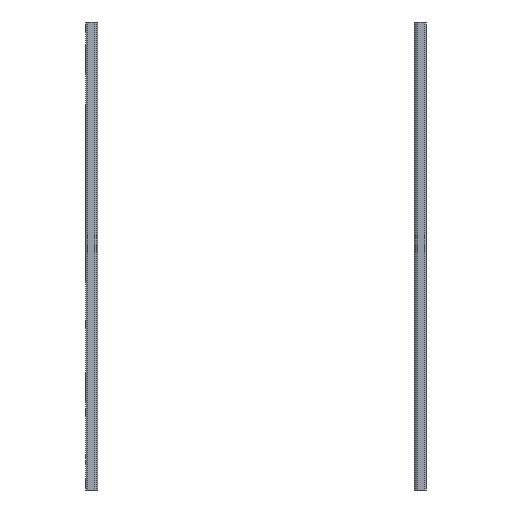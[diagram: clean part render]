
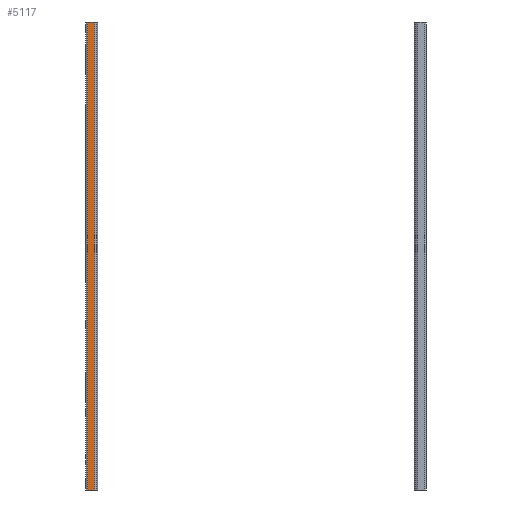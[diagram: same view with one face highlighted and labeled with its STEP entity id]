
A CAD part, front view. The second image highlights one B-rep face of the part: STEP entity #5117.
In plain terms, the highlighted planar face has unit normal (0, -1, 0).
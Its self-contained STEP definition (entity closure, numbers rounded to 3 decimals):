
#688=LINE('',#7937,#1143);
#758=LINE('',#8087,#1213);
#759=LINE('',#8090,#1214);
#760=LINE('',#8091,#1215);
#1143=VECTOR('',#6362,7.4);
#1213=VECTOR('',#6588,500.);
#1214=VECTOR('',#6591,7.4);
#1215=VECTOR('',#6592,500.);
#1469=PLANE('',#5517);
#1662=FACE_OUTER_BOUND('',#1962,.T.);
#1962=EDGE_LOOP('',(#4358,#4359,#4360,#4361));
#2629=VERTEX_POINT('',#7934);
#2630=VERTEX_POINT('',#7936);
#2632=VERTEX_POINT('',#8085);
#2633=VERTEX_POINT('',#8089);
#3173=EDGE_CURVE('',#2629,#2630,#688,.T.);
#3245=EDGE_CURVE('',#2632,#2629,#758,.T.);
#3246=EDGE_CURVE('',#2632,#2633,#759,.T.);
#3247=EDGE_CURVE('',#2630,#2633,#760,.T.);
#4358=ORIENTED_EDGE('',*,*,#3245,.F.);
#4359=ORIENTED_EDGE('',*,*,#3246,.T.);
#4360=ORIENTED_EDGE('',*,*,#3247,.F.);
#4361=ORIENTED_EDGE('',*,*,#3173,.F.);
#5117=ADVANCED_FACE('',(#1662),#1469,.T.);
#5517=AXIS2_PLACEMENT_3D('',#8088,#6589,#6590);
#6362=DIRECTION('',(-1.,0.,0.));
#6588=DIRECTION('',(0.,0.,-1.));
#6589=DIRECTION('center_axis',(0.,-1.,0.));
#6590=DIRECTION('ref_axis',(-1.,0.,0.));
#6591=DIRECTION('',(-1.,0.,0.));
#6592=DIRECTION('',(0.,0.,1.));
#7934=CARTESIAN_POINT('',(9.4,-21.85,-500.));
#7936=CARTESIAN_POINT('',(2.,-21.85,-500.));
#7937=CARTESIAN_POINT('',(11.4,-21.85,-500.));
#8085=CARTESIAN_POINT('',(9.4,-21.85,0.));
#8087=CARTESIAN_POINT('',(9.4,-21.85,0.));
#8088=CARTESIAN_POINT('Origin',(11.4,-21.85,0.));
#8089=CARTESIAN_POINT('',(2.,-21.85,0.));
#8090=CARTESIAN_POINT('',(11.4,-21.85,0.));
#8091=CARTESIAN_POINT('',(2.,-21.85,0.));
